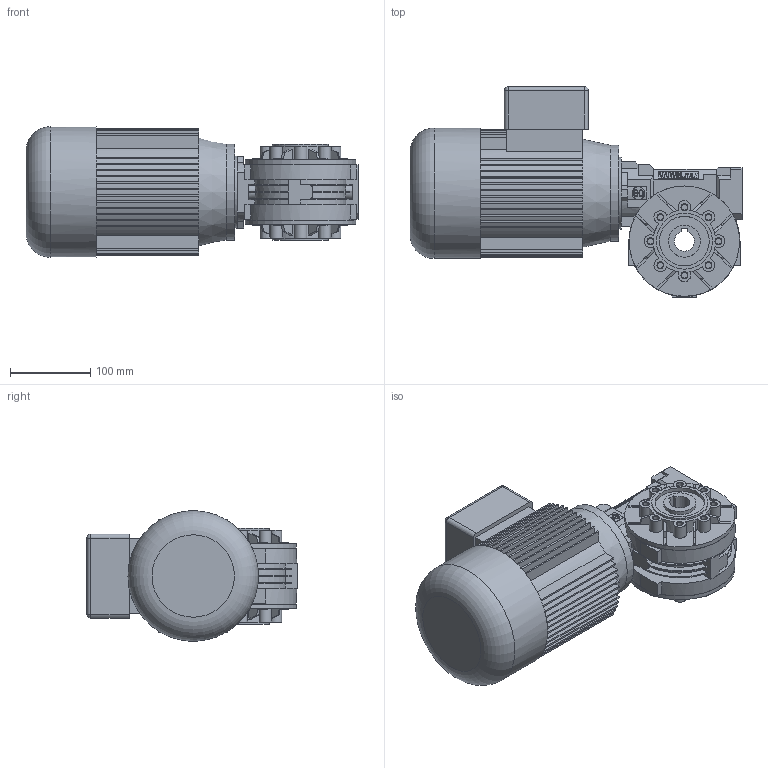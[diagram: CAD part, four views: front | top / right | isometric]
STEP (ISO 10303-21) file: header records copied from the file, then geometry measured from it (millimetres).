
FILE_DESCRIPTION( ( 'Unknown' ), '1' );
FILE_NAME( 'E:/services/configuratordownloads/customers/VARVEL/RS/download/AC4EAACCC8D5562DF8AFBC7DDA4C43/STEP/AC4EAACCC8D5562DF8AFBC7DDA4C43.3d.stp', 'Unknown', ( 'Unknown' ), ( 'Unknown' ), 'PSStep 10.1', 'Unknown', ' ' );
FILE_SCHEMA( ( 'AUTOMOTIVE_DESIGN { 1 0 10303 214 1 1 1 1 }' ) );
Length unit declared in the file: millimetre
Products named in the file (1): 579101
Bounding box: 415 x 263 x 163 mm (x, y, z)
Volume: 6418607.2 mm3; surface area: 509010 mm2
Topology: 1 solids, 3 shells, 983 faces, 2608 edges, 1713 vertices
Faces by surface type: plane 740, cylinder 201, cone 37, sphere 4, torus 1
Full cylindrical faces by diameter (mm): 5 x4, 7.5 x8, 7.6 x16, 8.5 x16, 16 x1, 19 x1, 20 x1, 21.5 x1, 25 x1, 40 x2, 45 x1, 52 x2, 62 x2, 62.1 x1, 68 x2, 68.4 x2, 70 x4, 78.5 x1, 80 x1, 90 x1, 106 x1, 120 x1, 138 x2, 163 x1
Entity records: 37761 total; most frequent: CARTESIAN_POINT 5646, ORIENTED_EDGE 4980, DIRECTION 4927, EDGE_CURVE 2490, LINE 1833, VECTOR 1833, VERTEX_POINT 1678, AXIS2_PLACEMENT_3D 1547
